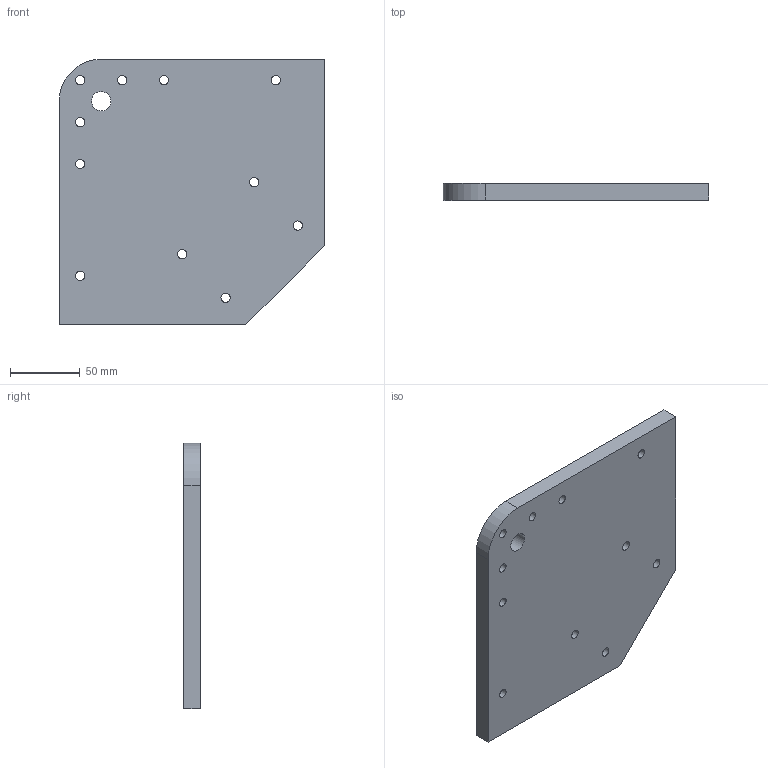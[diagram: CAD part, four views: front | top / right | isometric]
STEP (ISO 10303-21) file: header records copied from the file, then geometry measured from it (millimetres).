
FILE_DESCRIPTION(/* description */ ('Unknown'),/* implementation_level */ '2;1');
FILE_NAME(/* name */ 'FTR06190',/* time_stamp */ '2026-09-29T14:52:19+08:00',/* author */ ('Unknown'),/* organization */ ('Unknown'),/* preprocessor_version */ 'ST-DEVELOPER v16.7',/* originating_system */ 'DEX',/* authorisation */ $);
FILE_SCHEMA (('AUTOMOTIVE_DESIGN {1 0 10303 214 3 1 1}'));
Length unit declared in the file: millimetre
Products named in the file (1): FTR06190
Bounding box: 190 x 12 x 190 mm (x, y, z)
Volume: 388979.5 mm3; surface area: 80535.8 mm2
Topology: 1 solids, 1 shells, 39 faces, 92 edges, 63 vertices
Faces by surface type: cylinder 20, plane 19
Full cylindrical faces by diameter (mm): 6.5 x7, 6.647 x4, 11 x7, 13.835 x1
Entity records: 1351 total; most frequent: DIRECTION 188, CARTESIAN_POINT 166, ORIENTED_EDGE 136, EDGE_LOOP 90, FACE_BOUND 90, AXIS2_PLACEMENT_3D 80, EDGE_CURVE 68, VERTEX_POINT 58
